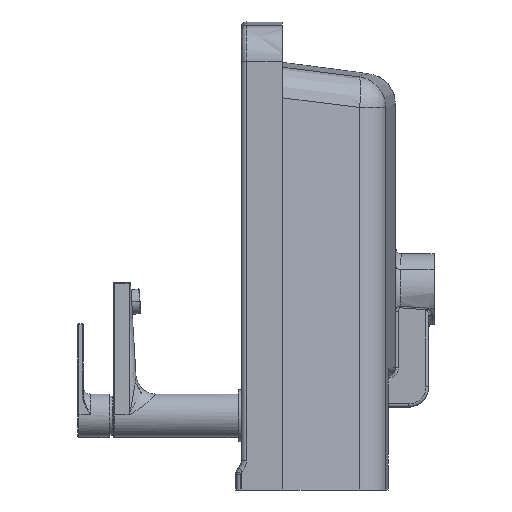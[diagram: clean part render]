
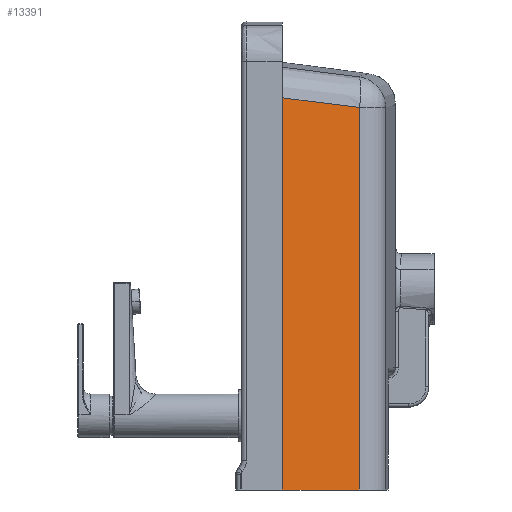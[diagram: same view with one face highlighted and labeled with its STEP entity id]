
A CAD part, left-side view. The second image highlights one B-rep face of the part: STEP entity #13391.
In plain terms, the highlighted planar face has unit normal (-0.988, -0.153, 0).
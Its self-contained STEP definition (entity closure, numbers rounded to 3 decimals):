
#45 = ORIENTED_EDGE ( 'NONE', *, *, #22450, .T. ) ;
#411 = VERTEX_POINT ( 'NONE', #23839 ) ;
#435 = CARTESIAN_POINT ( 'NONE',  ( -285.842, 517.058, -220.871 ) ) ;
#2486 = CARTESIAN_POINT ( 'NONE',  ( -285.581, 515.373, 158.87 ) ) ;
#2656 = DIRECTION ( 'NONE',  ( 0., 0., 1. ) ) ;
#3211 = LINE ( 'NONE', #435, #33054 ) ;
#5481 = CARTESIAN_POINT ( 'NONE',  ( -280.391, 481.895, 154.663 ) ) ;
#6701 = DIRECTION ( 'NONE',  ( -0.988, -0.153, 0. ) ) ;
#7694 = LINE ( 'NONE', #28143, #22267 ) ;
#8445 = CARTESIAN_POINT ( 'NONE',  ( -272.464, 430.77, 148.23 ) ) ;
#9741 = VERTEX_POINT ( 'NONE', #35609 ) ;
#10203 = ORIENTED_EDGE ( 'NONE', *, *, #12017, .T. ) ;
#10588 = CARTESIAN_POINT ( 'NONE',  ( -272.464, 430.77, -220.871 ) ) ;
#10736 = DIRECTION ( 'NONE',  ( 0., 0., -1. ) ) ;
#11496 = AXIS2_PLACEMENT_3D ( 'NONE', #24537, #6701, #29377 ) ;
#11800 = VERTEX_POINT ( 'NONE', #32806 ) ;
#12017 = EDGE_CURVE ( 'NONE', #11800, #411, #14463, .T. ) ;
#13391 = ADVANCED_FACE ( 'NONE', ( #24152 ), #15969, .T. ) ;
#13503 = LINE ( 'NONE', #16103, #21926 ) ;
#14463 = B_SPLINE_CURVE_WITH_KNOTS ( 'NONE', 3,
 ( #8445, #27972, #19755, #30375, #5481, #22002, #2486 ),
 .UNSPECIFIED., .F., .F.,
 ( 4, 3, 4 ),
 ( 0.025, 0.06, 0.111 ),
 .UNSPECIFIED. ) ;
#15969 = PLANE ( 'NONE',  #11496 ) ;
#16103 = CARTESIAN_POINT ( 'NONE',  ( -285.581, 515.373, -220.871 ) ) ;
#18403 = ORIENTED_EDGE ( 'NONE', *, *, #25975, .F. ) ;
#19045 = EDGE_CURVE ( 'NONE', #411, #9741, #13503, .T. ) ;
#19755 = CARTESIAN_POINT ( 'NONE',  ( -276.018, 453.694, 151.115 ) ) ;
#20943 = EDGE_LOOP ( 'NONE', ( #10203, #31391, #18403, #45 ) ) ;
#21926 = VECTOR ( 'NONE', #10736, 1000. ) ;
#22002 = CARTESIAN_POINT ( 'NONE',  ( -282.986, 498.634, 156.767 ) ) ;
#22267 = VECTOR ( 'NONE', #2656, 1000. ) ;
#22450 = EDGE_CURVE ( 'NONE', #27147, #11800, #7694, .T. ) ;
#23839 = CARTESIAN_POINT ( 'NONE',  ( -285.581, 515.373, 158.87 ) ) ;
#24152 = FACE_OUTER_BOUND ( 'NONE', #20943, .T. ) ;
#24537 = CARTESIAN_POINT ( 'NONE',  ( -286.768, 523.026, -96.533 ) ) ;
#25975 = EDGE_CURVE ( 'NONE', #27147, #9741, #3211, .T. ) ;
#27147 = VERTEX_POINT ( 'NONE', #10588 ) ;
#27972 = CARTESIAN_POINT ( 'NONE',  ( -274.241, 442.232, 149.673 ) ) ;
#28143 = CARTESIAN_POINT ( 'NONE',  ( -272.464, 430.77, -96.533 ) ) ;
#29237 = DIRECTION ( 'NONE',  ( -0.153, 0.988, 0. ) ) ;
#29377 = DIRECTION ( 'NONE',  ( 0., 0., -1. ) ) ;
#30375 = CARTESIAN_POINT ( 'NONE',  ( -277.795, 465.156, 152.557 ) ) ;
#31391 = ORIENTED_EDGE ( 'NONE', *, *, #19045, .T. ) ;
#32806 = CARTESIAN_POINT ( 'NONE',  ( -272.464, 430.77, 148.23 ) ) ;
#33054 = VECTOR ( 'NONE', #29237, 1000. ) ;
#35609 = CARTESIAN_POINT ( 'NONE',  ( -285.581, 515.373, -220.871 ) ) ;
